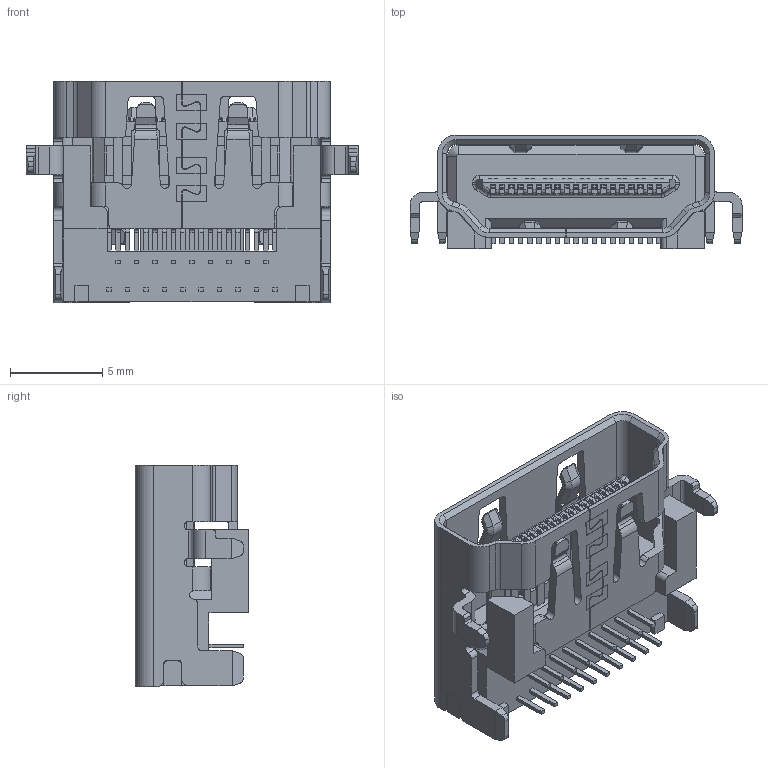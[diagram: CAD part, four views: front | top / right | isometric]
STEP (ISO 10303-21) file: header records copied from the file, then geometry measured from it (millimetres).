
FILE_DESCRIPTION (( 'STEP AP214' ), '1' );
FILE_NAME ('GT-HD003C-XXXGX.stp', '2024-06-29T09:46:06', ( '' ), ( '' ), 'SwSTEP 2.0', 'SolidWorks 2023', '' );
FILE_SCHEMA (( 'AUTOMOTIVE_DESIGN' ));
Length unit declared in the file: millimetre
Products named in the file (1): GT-HD003C-XXXGX
Bounding box: 18 x 6.16 x 12 mm (x, y, z)
Volume: 445.7 mm3; surface area: 1401.1 mm2
Topology: 1 solids, 1 shells, 1617 faces, 4631 edges, 3054 vertices
Faces by surface type: plane 1176, cylinder 341, bspline 76, cone 18, torus 6
Entity records: 56657 total; most frequent: CARTESIAN_POINT 14498, ORIENTED_EDGE 9254, DIRECTION 8064, EDGE_CURVE 4627, VECTOR 3648, LINE 3648, VERTEX_POINT 3054, AXIS2_PLACEMENT_3D 2208
